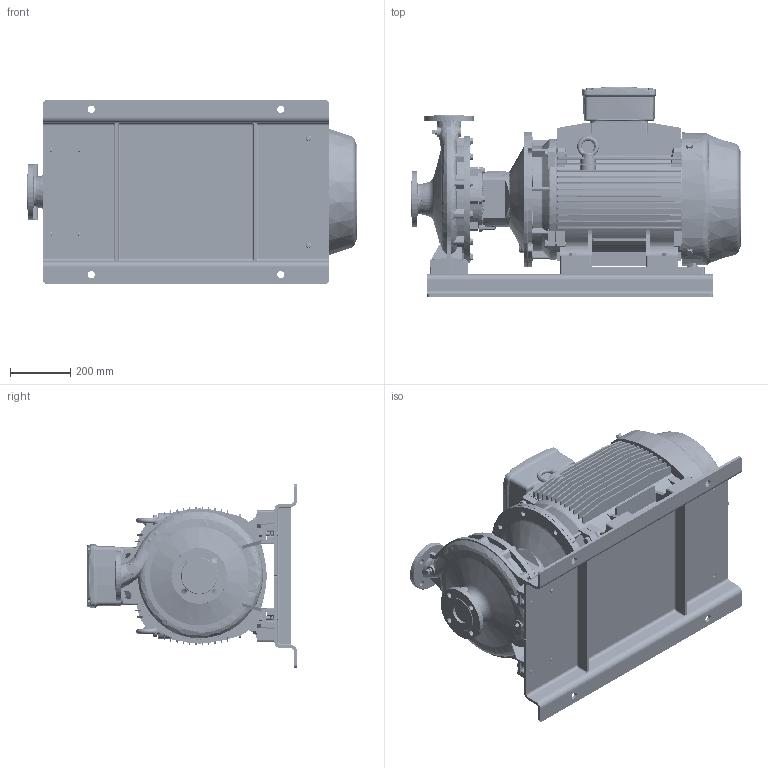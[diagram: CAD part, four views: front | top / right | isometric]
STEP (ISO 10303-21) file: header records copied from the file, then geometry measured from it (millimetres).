
FILE_DESCRIPTION (( 'STEP AP214' ), '1' );
FILE_NAME ('GSD2 50-315_45_(225SM)_W21_BP.STEP', '2024-05-17T01:35:29', ( '' ), ( '' ), 'SwSTEP 2.0', 'SolidWorks 2019', '' );
FILE_SCHEMA (( 'AUTOMOTIVE_DESIGN' ));
Length unit declared in the file: millimetre
Products named in the file (21): Parametric bolt and washer_SFT-A309B; Parametric bolt and washer_SFT-A355B; CGS11-5311_2_3_4_5_CGS11-5312; Parametric Flat Washer_M16; Parametric bolt and washer_SFT-A359B; N7S3 GSDA-73A F1-1832953-00; Parametric bolt_SFT-A309B; Parametric Flat Washer_M12; 80x25 -CGSDA-5281 (225) (Offset); 225S_M2P IE3_W21T_B35; Parametric bolt_SFT-A359B; 50-315-225S_M; Parametric bolt_SFT-A353B; GSD2  50-315_45_(225SM)_W21_BP
Assembly tree (37 placements, depth 3):
  GSD2  50-315_45_(225SM)_W21_BP
    50-315-225S_M
    225S_M2P IE3_W21T_B35
    CGS11-5311_2_3_4_5_CGS11-5312  x2
    N7S3 GSDA-73A F1-1832953-00
    Parametric bolt and washer_SFT-A309B
      Parametric bolt_SFT-A309B
      Parametric Flat Washer_M12
    Parametric bolt and washer_SFT-A309B
      Parametric bolt_SFT-A309B
      Parametric Flat Washer_M12
    Parametric bolt and washer_SFT-A309B
      Parametric bolt_SFT-A309B
      Parametric Flat Washer_M12
    Parametric bolt and washer_SFT-A309B
      Parametric bolt_SFT-A309B
      Parametric Flat Washer_M12
    Parametric bolt and washer_SFT-A355B
      Parametric bolt_SFT-A353B
      Parametric Flat Washer_M16
    Parametric bolt and washer_SFT-A355B
      Parametric bolt_SFT-A353B
      Parametric Flat Washer_M16
    Parametric bolt and washer_SFT-A359B
      Parametric bolt_SFT-A359B
      Parametric Flat Washer_M16
    Parametric bolt and washer_SFT-A359B
      Parametric bolt_SFT-A359B
      Parametric Flat Washer_M16
    Parametric bolt and washer_SFT-A359B
      Parametric bolt_SFT-A359B
      Parametric Flat Washer_M16
    Parametric bolt and washer_SFT-A359B
      Parametric bolt_SFT-A359B
      Parametric Flat Washer_M16
    80x25 -CGSDA-5281 (225) (Offset)  x2
Bounding box: 1094.5 x 698 x 610 mm (x, y, z)
Volume: 131510624.4 mm3; surface area: 5937047.3 mm2
Topology: 44 solids, 49 shells, 4371 faces, 11636 edges, 7484 vertices
Faces by surface type: plane 1845, cylinder 1436, cone 520, torus 300, bspline 255, sphere 15
Entity records: 176661 total; most frequent: CARTESIAN_POINT 68019, ORIENTED_EDGE 20816, DIRECTION 19029, EDGE_CURVE 10408, AXIS2_PLACEMENT_3D 6974, VERTEX_POINT 6695, LINE 5081, VECTOR 5081
